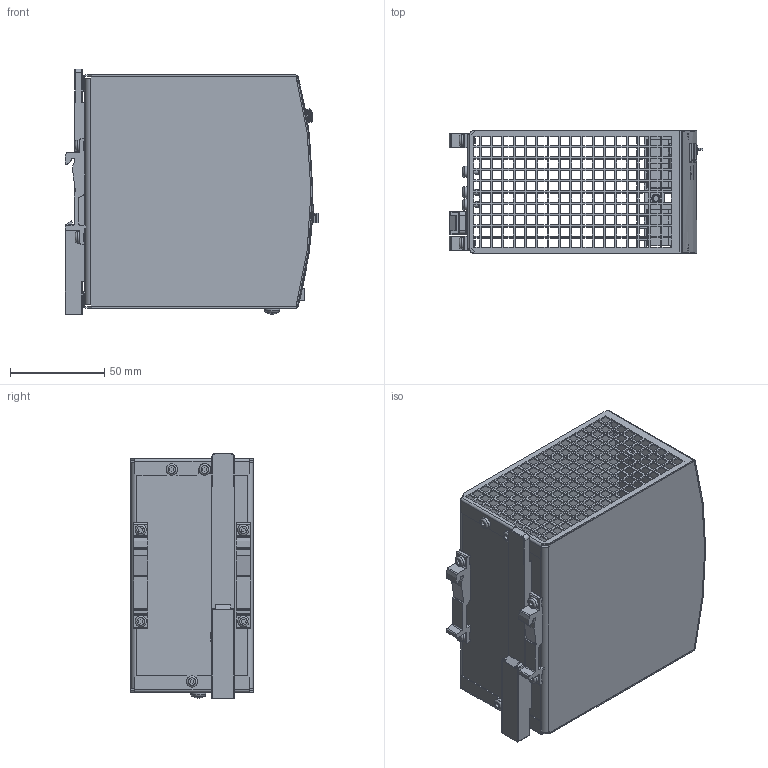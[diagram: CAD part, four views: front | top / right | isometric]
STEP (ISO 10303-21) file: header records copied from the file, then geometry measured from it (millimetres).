
FILE_DESCRIPTION(/* description */ ('HOUSING BODY','CAx-IF Rec.Pracs.---Representation and Presentation of Product Manufacturing Information (PMI)---3.8---2014-02-18'),/* implementation_level */ '2;1');
FILE_NAME(/* name */ 'C:\Users\rahns\Desktop\md3_cps20_241.stp',/* time_stamp */ '2016-11-08T09:34:59+01:00',/* author */ ('rahns'),/* organization */ (''),/* preprocessor_version */ 'ST-DEVELOPER v16.1',/* originating_system */ 'Autodesk Inventor 2016',/* authorisation */ '');
FILE_SCHEMA (('AP242_MANAGED_MODEL_BASED_3D_ENGINEERING_MIM_LF { 1 0 10303 442 1 1 4 }'));
Products named in the file (15): HOUSING BODY 382.00; HOUSING COVER 382.00; MKT_XT-LP2BK-D1; MKT_LP3BK-D2; MKT_T HOLDER; MKT_SLIDER; MKT_POTI COVER; MKT_JUMPER; MKT_XT-LP2SW-R3; MKT_SCREW 3x6; MKT_SCREW 4x8; MKT_JUMPER BRACKET; FRONTFOIL 382.00; MKT_LED GN; 382.00
Assembly tree (22 placements, depth 2):
  382.00
    HOUSING BODY 382.00
    HOUSING COVER 382.00
    MKT_XT-LP2BK-D1  x2
    MKT_LP3BK-D2
    MKT_T HOLDER  x2
    MKT_SLIDER
    MKT_POTI COVER
    MKT_JUMPER
    MKT_XT-LP2SW-R3
    MKT_SCREW 3x6  x7
    MKT_SCREW 4x8
    MKT_JUMPER BRACKET
    FRONTFOIL 382.00
    MKT_LED GN
Bounding box: 134.7 x 65 x 130.5 mm (x, y, z)
Volume: 93469.8 mm3; surface area: 139436.4 mm2
Topology: 23 solids, 23 shells, 3430 faces, 9639 edges, 6383 vertices
Faces by surface type: plane 2597, bspline 503, cylinder 270, torus 26, cone 21, sphere 13
Full cylindrical faces by diameter (mm): 1 x2, 2.45 x3, 2.696 x1, 3 x7, 3.1 x4, 3.145 x1, 3.5 x1, 3.621 x1, 4 x1, 4.355 x1, 4.5 x2, 4.6 x1, 5.15 x7, 6 x7
Entity records: 114264 total; most frequent: CARTESIAN_POINT 32211, ORIENTED_EDGE 17936, DIRECTION 14344, EDGE_CURVE 8968, LINE 7026, VECTOR 7026, VERTEX_POINT 5969, EDGE_LOOP 4083
